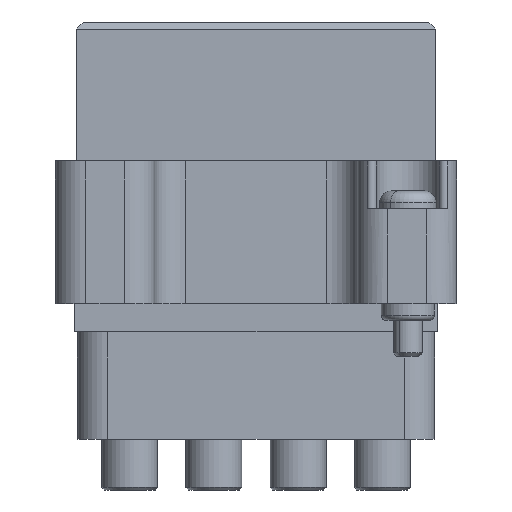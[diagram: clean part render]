
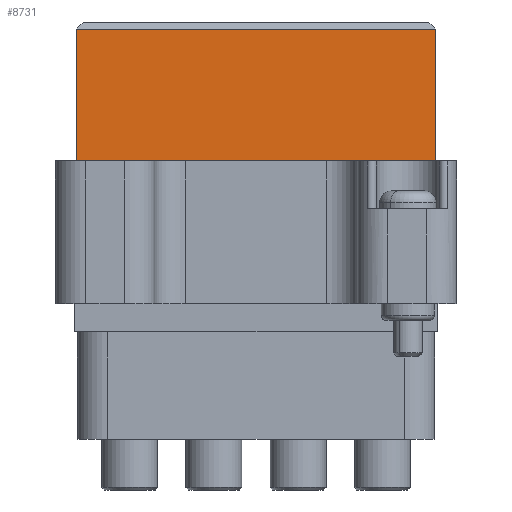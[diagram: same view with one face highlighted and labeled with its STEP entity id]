
A CAD part, front view. The second image highlights one B-rep face of the part: STEP entity #8731.
In plain terms, the highlighted planar face has unit normal (0, -1, 0).
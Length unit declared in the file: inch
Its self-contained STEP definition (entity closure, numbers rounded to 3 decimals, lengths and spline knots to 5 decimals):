
#147 = DIRECTION ( 'NONE',  ( -1., 0., 0. ) ) ;
#260 = ORIENTED_EDGE ( 'NONE', *, *, #2174, .F. ) ;
#1768 = EDGE_CURVE ( 'NONE', #13612, #2859, #8698, .T. ) ;
#1780 = PLANE ( 'NONE',  #6949 ) ;
#2037 = LINE ( 'NONE', #7429, #17295 ) ;
#2174 = EDGE_CURVE ( 'NONE', #15013, #11109, #2037, .T. ) ;
#2859 = VERTEX_POINT ( 'NONE', #4633 ) ;
#3281 = DIRECTION ( 'NONE',  ( 0., 0., 1. ) ) ;
#3438 = DIRECTION ( 'NONE',  ( 0., 0., 1. ) ) ;
#4633 = CARTESIAN_POINT ( 'NONE',  ( 27.53729, 33.88777, 51.43127 ) ) ;
#4759 = CARTESIAN_POINT ( 'NONE',  ( 26.47229, 33.88777, 51.43127 ) ) ;
#5681 = DIRECTION ( 'NONE',  ( 0., 0., 1. ) ) ;
#5762 = FACE_OUTER_BOUND ( 'NONE', #15732, .T. ) ;
#5808 = VECTOR ( 'NONE', #3281, 39.37008 ) ;
#5863 = VECTOR ( 'NONE', #147, 39.37008 ) ;
#6949 = AXIS2_PLACEMENT_3D ( 'NONE', #12363, #15078, #5681 ) ;
#7429 = CARTESIAN_POINT ( 'NONE',  ( 26.47229, 33.88777, 51.04027 ) ) ;
#8184 = CARTESIAN_POINT ( 'NONE',  ( 27.53729, 33.88777, 51.04027 ) ) ;
#8603 = CARTESIAN_POINT ( 'NONE',  ( 27.53729, 33.88777, 51.04027 ) ) ;
#8698 = LINE ( 'NONE', #8603, #5808 ) ;
#8731 = ADVANCED_FACE ( 'NONE', ( #5762 ), #1780, .T. ) ;
#9243 = CARTESIAN_POINT ( 'NONE',  ( 26.47229, 33.88777, 51.43127 ) ) ;
#9503 = EDGE_CURVE ( 'NONE', #2859, #11109, #16148, .T. ) ;
#9573 = CARTESIAN_POINT ( 'NONE',  ( 26.47229, 33.88777, 51.04027 ) ) ;
#10002 = VECTOR ( 'NONE', #15719, 39.37008 ) ;
#10516 = ORIENTED_EDGE ( 'NONE', *, *, #1768, .T. ) ;
#11109 = VERTEX_POINT ( 'NONE', #4759 ) ;
#12363 = CARTESIAN_POINT ( 'NONE',  ( 26.47229, 33.88777, 51.04027 ) ) ;
#13006 = CARTESIAN_POINT ( 'NONE',  ( 26.47229, 33.88777, 51.04027 ) ) ;
#13612 = VERTEX_POINT ( 'NONE', #8184 ) ;
#14568 = ORIENTED_EDGE ( 'NONE', *, *, #17292, .T. ) ;
#15013 = VERTEX_POINT ( 'NONE', #9573 ) ;
#15078 = DIRECTION ( 'NONE',  ( 0., -1., 0. ) ) ;
#15719 = DIRECTION ( 'NONE',  ( 1., 0., 0. ) ) ;
#15720 = ORIENTED_EDGE ( 'NONE', *, *, #9503, .T. ) ;
#15732 = EDGE_LOOP ( 'NONE', ( #10516, #15720, #260, #14568 ) ) ;
#16148 = LINE ( 'NONE', #9243, #5863 ) ;
#16668 = LINE ( 'NONE', #13006, #10002 ) ;
#17292 = EDGE_CURVE ( 'NONE', #15013, #13612, #16668, .T. ) ;
#17295 = VECTOR ( 'NONE', #3438, 39.37008 ) ;
